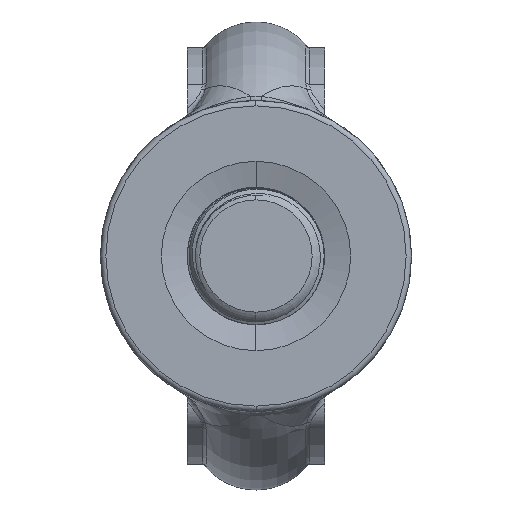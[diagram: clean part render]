
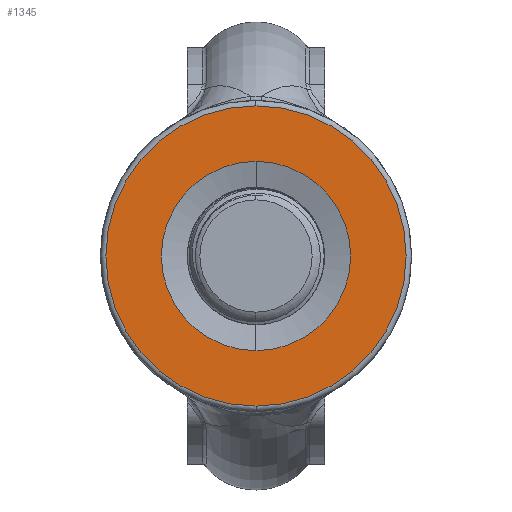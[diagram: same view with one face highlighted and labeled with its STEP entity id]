
A CAD part, left-side view. The second image highlights one B-rep face of the part: STEP entity #1345.
In plain terms, the highlighted planar face has unit normal (-1, 0, 0).
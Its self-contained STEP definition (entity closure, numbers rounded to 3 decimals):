
#1064 = CARTESIAN_POINT ( 'NONE',  ( 0., 0., -35. ) ) ;
#1068 = PLANE ( 'NONE',  #3438 ) ;
#1073 = DIRECTION ( 'NONE',  ( 1., 0., 0. ) ) ;
#1074 = DIRECTION ( 'NONE',  ( 0., 0., -1. ) ) ;
#1345 = ADVANCED_FACE ( 'NONE', ( #11932, #11943 ), #1068, .F. ) ;
#3376 = EDGE_CURVE ( 'NONE', #4000, #3999, #12202, .T. ) ;
#3377 = EDGE_CURVE ( 'NONE', #11923, #10445, #12203, .T. ) ;
#3438 = AXIS2_PLACEMENT_3D ( 'NONE', #1064, #1073, #1074 ) ;
#3475 = EDGE_CURVE ( 'NONE', #3999, #4000, #12219, .T. ) ;
#3522 = EDGE_CURVE ( 'NONE', #10445, #11923, #12253, .T. ) ;
#3798 = EDGE_LOOP ( 'NONE', ( #10493, #10494 ) ) ;
#3799 = EDGE_LOOP ( 'NONE', ( #10491, #10492 ) ) ;
#3999 = VERTEX_POINT ( 'NONE', #7196 ) ;
#4000 = VERTEX_POINT ( 'NONE', #7197 ) ;
#5706 = CARTESIAN_POINT ( 'NONE',  ( 0., 0., 0. ) ) ;
#5707 = DIRECTION ( 'NONE',  ( -1., 0., 0. ) ) ;
#5708 = DIRECTION ( 'NONE',  ( 0., 0., -1. ) ) ;
#5709 = CARTESIAN_POINT ( 'NONE',  ( 0., 0., 0. ) ) ;
#5710 = DIRECTION ( 'NONE',  ( -1., 0., 0. ) ) ;
#5711 = DIRECTION ( 'NONE',  ( 0., 0., 1. ) ) ;
#6077 = CARTESIAN_POINT ( 'NONE',  ( 0., 0., 0. ) ) ;
#6078 = DIRECTION ( 'NONE',  ( -1., 0., 0. ) ) ;
#6079 = DIRECTION ( 'NONE',  ( 0., 0., -1. ) ) ;
#6742 = CARTESIAN_POINT ( 'NONE',  ( 0., 0., 0. ) ) ;
#6743 = DIRECTION ( 'NONE',  ( -1., 0., 0. ) ) ;
#6744 = DIRECTION ( 'NONE',  ( 0., 0., 1. ) ) ;
#7196 = CARTESIAN_POINT ( 'NONE',  ( 0., 0., 55.5 ) ) ;
#7197 = CARTESIAN_POINT ( 'NONE',  ( 0., 0., -55.5 ) ) ;
#7282 = CARTESIAN_POINT ( 'NONE',  ( 0., 0., -35. ) ) ;
#7285 = CARTESIAN_POINT ( 'NONE',  ( 0., 0., 35. ) ) ;
#7375 = AXIS2_PLACEMENT_3D ( 'NONE', #5706, #5707, #5708 ) ;
#7376 = AXIS2_PLACEMENT_3D ( 'NONE', #5709, #5710, #5711 ) ;
#7391 = AXIS2_PLACEMENT_3D ( 'NONE', #6077, #6078, #6079 ) ;
#7409 = AXIS2_PLACEMENT_3D ( 'NONE', #6742, #6743, #6744 ) ;
#10445 = VERTEX_POINT ( 'NONE', #7282 ) ;
#10491 = ORIENTED_EDGE ( 'NONE', *, *, #3376, .T. ) ;
#10492 = ORIENTED_EDGE ( 'NONE', *, *, #3475, .T. ) ;
#10493 = ORIENTED_EDGE ( 'NONE', *, *, #3377, .F. ) ;
#10494 = ORIENTED_EDGE ( 'NONE', *, *, #3522, .F. ) ;
#11923 = VERTEX_POINT ( 'NONE', #7285 ) ;
#11932 = FACE_OUTER_BOUND ( 'NONE', #3799, .T. ) ;
#11943 = FACE_BOUND ( 'NONE', #3798, .T. ) ;
#12202 = CIRCLE ( 'NONE', #7375, 55.5 ) ;
#12203 = CIRCLE ( 'NONE', #7376, 35. ) ;
#12219 = CIRCLE ( 'NONE', #7391, 55.5 ) ;
#12253 = CIRCLE ( 'NONE', #7409, 35. ) ;
